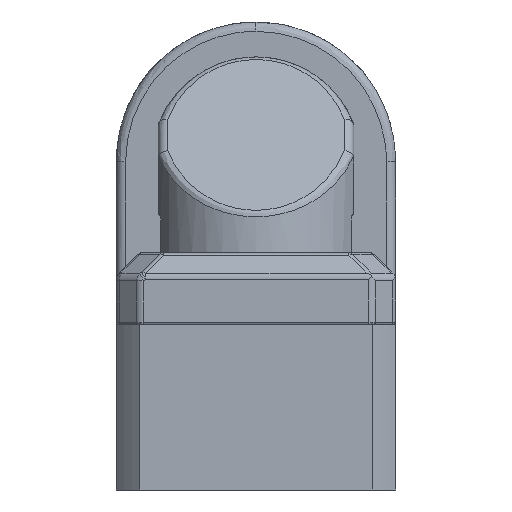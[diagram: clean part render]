
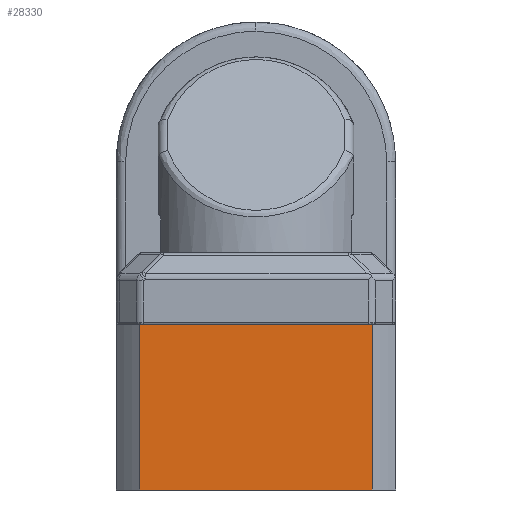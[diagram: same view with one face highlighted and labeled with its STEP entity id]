
A CAD part, front view. The second image highlights one B-rep face of the part: STEP entity #28330.
In plain terms, the highlighted planar face has unit normal (0, -1, 0).
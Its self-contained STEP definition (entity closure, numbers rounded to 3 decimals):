
#816 = VERTEX_POINT ( 'NONE', #24788 ) ;
#1195 = EDGE_CURVE ( 'NONE', #21050, #816, #43036, .T. ) ;
#2713 = AXIS2_PLACEMENT_3D ( 'NONE', #32178, #43138, #21401 ) ;
#6004 = VECTOR ( 'NONE', #46713, 1000. ) ;
#9469 = LINE ( 'NONE', #15647, #46962 ) ;
#11737 = VECTOR ( 'NONE', #29634, 1000. ) ;
#12618 = CARTESIAN_POINT ( 'NONE',  ( 24.92, -30., 0. ) ) ;
#15647 = CARTESIAN_POINT ( 'NONE',  ( 0., -30., -35.5 ) ) ;
#19256 = EDGE_CURVE ( 'NONE', #35556, #39387, #36069, .T. ) ;
#19379 = ORIENTED_EDGE ( 'NONE', *, *, #41872, .T. ) ;
#21050 = VERTEX_POINT ( 'NONE', #29989 ) ;
#21253 = CARTESIAN_POINT ( 'NONE',  ( -24.92, -30., -35.5 ) ) ;
#21401 = DIRECTION ( 'NONE',  ( 0., 0., -1. ) ) ;
#23156 = ORIENTED_EDGE ( 'NONE', *, *, #19256, .F. ) ;
#24788 = CARTESIAN_POINT ( 'NONE',  ( -24.92, -30., -35.5 ) ) ;
#24900 = PLANE ( 'NONE',  #2713 ) ;
#26837 = ORIENTED_EDGE ( 'NONE', *, *, #41990, .T. ) ;
#27366 = CARTESIAN_POINT ( 'NONE',  ( 24.92, -30., -35.5 ) ) ;
#28330 = ADVANCED_FACE ( 'NONE', ( #35400 ), #24900, .T. ) ;
#29634 = DIRECTION ( 'NONE',  ( -1., 0., 0. ) ) ;
#29989 = CARTESIAN_POINT ( 'NONE',  ( -24.92, -30., 0. ) ) ;
#30844 = ORIENTED_EDGE ( 'NONE', *, *, #1195, .T. ) ;
#32178 = CARTESIAN_POINT ( 'NONE',  ( -30., -30., -35.5 ) ) ;
#35400 = FACE_OUTER_BOUND ( 'NONE', #41934, .T. ) ;
#35556 = VERTEX_POINT ( 'NONE', #12618 ) ;
#36069 = LINE ( 'NONE', #43052, #6004 ) ;
#37386 = DIRECTION ( 'NONE',  ( 1., 0., 0. ) ) ;
#39387 = VERTEX_POINT ( 'NONE', #27366 ) ;
#40710 = LINE ( 'NONE', #43786, #11737 ) ;
#41872 = EDGE_CURVE ( 'NONE', #35556, #21050, #40710, .T. ) ;
#41898 = VECTOR ( 'NONE', #42985, 1000. ) ;
#41934 = EDGE_LOOP ( 'NONE', ( #30844, #26837, #23156, #19379 ) ) ;
#41990 = EDGE_CURVE ( 'NONE', #816, #39387, #9469, .T. ) ;
#42985 = DIRECTION ( 'NONE',  ( 0., 0., -1. ) ) ;
#43036 = LINE ( 'NONE', #21253, #41898 ) ;
#43052 = CARTESIAN_POINT ( 'NONE',  ( 24.92, -30., 0. ) ) ;
#43138 = DIRECTION ( 'NONE',  ( 0., -1., 0. ) ) ;
#43786 = CARTESIAN_POINT ( 'NONE',  ( 0., -30., 0. ) ) ;
#46713 = DIRECTION ( 'NONE',  ( 0., 0., -1. ) ) ;
#46962 = VECTOR ( 'NONE', #37386, 1000. ) ;
